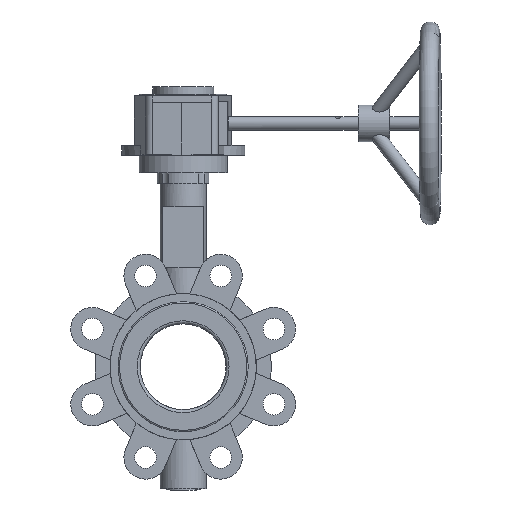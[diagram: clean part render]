
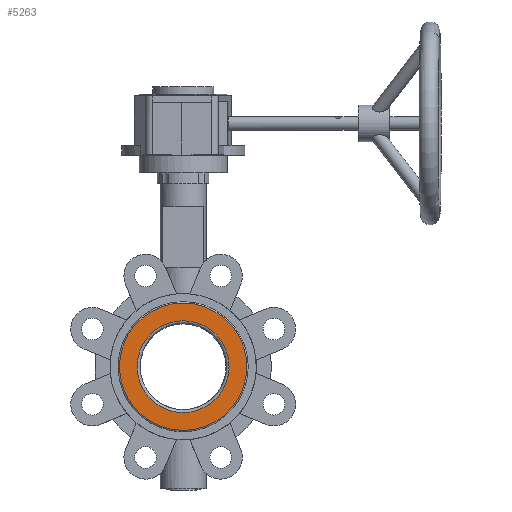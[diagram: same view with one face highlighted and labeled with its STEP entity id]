
A CAD part, front view. The second image highlights one B-rep face of the part: STEP entity #5263.
In plain terms, the highlighted planar face has unit normal (0, -1, 0) as drawn and (1, 0, 0) by its records, which use the part's own axes.
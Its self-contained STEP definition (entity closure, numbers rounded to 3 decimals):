
#329 = DIRECTION ( 'NONE',  ( 1., 0., 0. ) ) ;
#452 = EDGE_LOOP ( 'NONE', ( #10442 ) ) ;
#1604 = CARTESIAN_POINT ( 'NONE',  ( 25., 0., 0. ) ) ;
#1817 = CARTESIAN_POINT ( 'NONE',  ( 25., 0., 47. ) ) ;
#1904 = DIRECTION ( 'NONE',  ( 0., 0., 1. ) ) ;
#3528 = CARTESIAN_POINT ( 'NONE',  ( 25., 0., 33.89 ) ) ;
#3940 = CIRCLE ( 'NONE', #9180, 47. ) ;
#4283 = CARTESIAN_POINT ( 'NONE',  ( 25., 0., 0. ) ) ;
#4407 = PLANE ( 'NONE',  #7861 ) ;
#4656 = CIRCLE ( 'NONE', #9841, 33.89 ) ;
#4988 = EDGE_CURVE ( 'NONE', #7488, #7488, #4656, .T. ) ;
#5263 = ADVANCED_FACE ( 'NONE', ( #6952, #8418 ), #4407, .T. ) ;
#5688 = EDGE_LOOP ( 'NONE', ( #6693 ) ) ;
#6129 = DIRECTION ( 'NONE',  ( 0., 0., -1. ) ) ;
#6590 = DIRECTION ( 'NONE',  ( -1., 0., 0. ) ) ;
#6693 = ORIENTED_EDGE ( 'NONE', *, *, #4988, .T. ) ;
#6952 = FACE_BOUND ( 'NONE', #5688, .T. ) ;
#7488 = VERTEX_POINT ( 'NONE', #3528 ) ;
#7510 = DIRECTION ( 'NONE',  ( 0., 0., 1. ) ) ;
#7861 = AXIS2_PLACEMENT_3D ( 'NONE', #10286, #329, #6129 ) ;
#7896 = DIRECTION ( 'NONE',  ( -1., 0., 0. ) ) ;
#8039 = EDGE_CURVE ( 'NONE', #9967, #9967, #3940, .T. ) ;
#8418 = FACE_OUTER_BOUND ( 'NONE', #452, .T. ) ;
#9180 = AXIS2_PLACEMENT_3D ( 'NONE', #4283, #7896, #1904 ) ;
#9841 = AXIS2_PLACEMENT_3D ( 'NONE', #1604, #6590, #7510 ) ;
#9967 = VERTEX_POINT ( 'NONE', #1817 ) ;
#10286 = CARTESIAN_POINT ( 'NONE',  ( 25., 0., 0. ) ) ;
#10442 = ORIENTED_EDGE ( 'NONE', *, *, #8039, .F. ) ;
